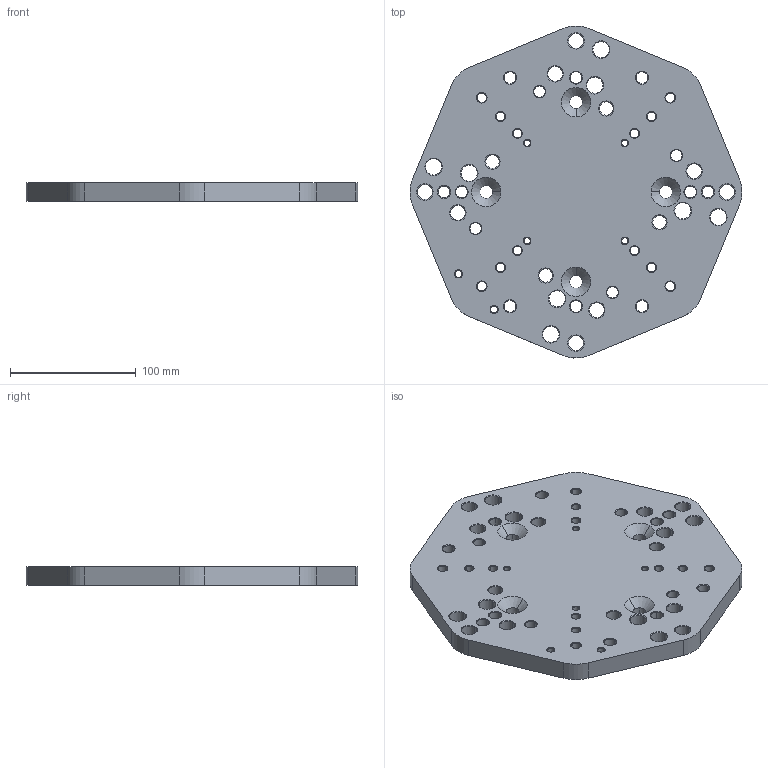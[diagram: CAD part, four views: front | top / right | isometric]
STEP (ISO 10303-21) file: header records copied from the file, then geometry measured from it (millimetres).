
FILE_DESCRIPTION((''),'2;1');
FILE_NAME('1002W1413','2024-01-17T08:01:09',('mab'),(''),'CREO PARAMETRIC BY PTC INC, 2022024','CREO PARAMETRIC BY PTC INC, 2022024','');
FILE_SCHEMA(('AUTOMOTIVE_DESIGN { 1 0 10303 214 1 1 1 1 }'));
Length unit declared in the file: millimetre
Products named in the file (1): 1002W1413
Bounding box: 264.16 x 264.16 x 15 mm (x, y, z)
Volume: 695221.4 mm3; surface area: 129726 mm2
Topology: 1 solids, 1 shells, 242 faces, 616 edges, 376 vertices
Faces by surface type: cylinder 120, cone 112, plane 10
Entity records: 8043 total; most frequent: DIRECTION 1460, CARTESIAN_POINT 1236, ORIENTED_EDGE 1232, EDGE_CURVE 616, AXIS2_PLACEMENT_3D 602, VERTEX_POINT 376, CIRCLE 360, EDGE_LOOP 354
